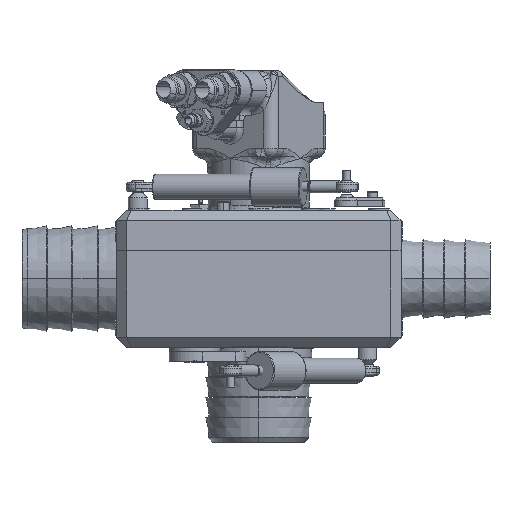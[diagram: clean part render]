
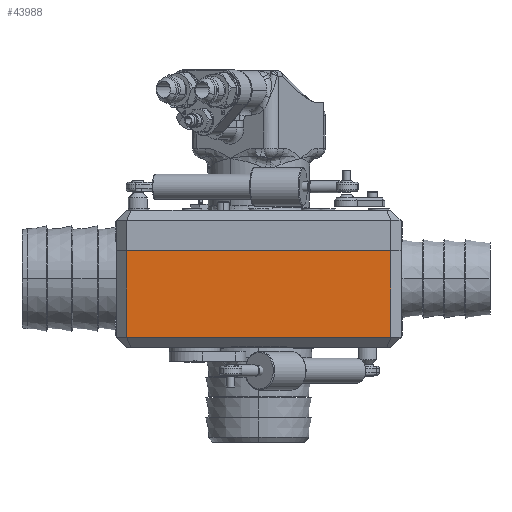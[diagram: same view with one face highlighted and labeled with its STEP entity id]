
A CAD part, left-side view. The second image highlights one B-rep face of the part: STEP entity #43988.
In plain terms, the highlighted planar face has unit normal (-1, 0, 0).
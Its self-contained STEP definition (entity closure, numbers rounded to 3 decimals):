
#11639 = FACE_OUTER_BOUND ( 'NONE', #43908, .T. ) ;
#11719 = DIRECTION ( 'NONE',  ( 0., 0., -1. ) ) ;
#11722 = DIRECTION ( 'NONE',  ( 1., 0., 0. ) ) ;
#11724 = CARTESIAN_POINT ( 'NONE',  ( -300., 130., -95. ) ) ;
#11725 = AXIS2_PLACEMENT_3D ( 'NONE', #11724, #11722, #11719 ) ;
#11727 = PLANE ( 'NONE',  #11725 ) ;
#43868 = EDGE_CURVE ( 'NONE', #43869, #43870, #132955, .T. ) ;
#43869 = VERTEX_POINT ( 'NONE', #133004 ) ;
#43870 = VERTEX_POINT ( 'NONE', #133003 ) ;
#43872 = ORIENTED_EDGE ( 'NONE', *, *, #43873, .T. ) ;
#43873 = EDGE_CURVE ( 'NONE', #43869, #67009, #133002, .T. ) ;
#43874 = ORIENTED_EDGE ( 'NONE', *, *, #43893, .T. ) ;
#43876 = ORIENTED_EDGE ( 'NONE', *, *, #43877, .T. ) ;
#43877 = EDGE_CURVE ( 'NONE', #43897, #43870, #132997, .T. ) ;
#43893 = EDGE_CURVE ( 'NONE', #67009, #43897, #133069, .T. ) ;
#43897 = VERTEX_POINT ( 'NONE', #133064 ) ;
#43908 = EDGE_LOOP ( 'NONE', ( #43989, #43872, #43874, #43876 ) ) ;
#43988 = ADVANCED_FACE ( 'NONE', ( #11639 ), #11727, .F. ) ;
#43989 = ORIENTED_EDGE ( 'NONE', *, *, #43868, .F. ) ;
#63684 = CARTESIAN_POINT ( 'NONE',  ( -300., -130., -85. ) ) ;
#67009 = VERTEX_POINT ( 'NONE', #63684 ) ;
#132955 = LINE ( 'NONE', #133007, #133006 ) ;
#132994 = DIRECTION ( 'NONE',  ( 0., 1., 0. ) ) ;
#132995 = VECTOR ( 'NONE', #132994, 1000. ) ;
#132996 = CARTESIAN_POINT ( 'NONE',  ( -300., 130., 0. ) ) ;
#132997 = LINE ( 'NONE', #132996, #132995 ) ;
#132999 = DIRECTION ( 'NONE',  ( 0., -1., 0. ) ) ;
#133000 = VECTOR ( 'NONE', #132999, 1000. ) ;
#133001 = CARTESIAN_POINT ( 'NONE',  ( -300., -130., -85. ) ) ;
#133002 = LINE ( 'NONE', #133001, #133000 ) ;
#133003 = CARTESIAN_POINT ( 'NONE',  ( -300., 130., 0. ) ) ;
#133004 = CARTESIAN_POINT ( 'NONE',  ( -300., 130., -85. ) ) ;
#133005 = DIRECTION ( 'NONE',  ( 0., 0., 1. ) ) ;
#133006 = VECTOR ( 'NONE', #133005, 1000. ) ;
#133007 = CARTESIAN_POINT ( 'NONE',  ( -300., 130., -95. ) ) ;
#133064 = CARTESIAN_POINT ( 'NONE',  ( -300., -130., 0. ) ) ;
#133066 = DIRECTION ( 'NONE',  ( 0., 0., 1. ) ) ;
#133067 = VECTOR ( 'NONE', #133066, 1000. ) ;
#133068 = CARTESIAN_POINT ( 'NONE',  ( -300., -130., -95. ) ) ;
#133069 = LINE ( 'NONE', #133068, #133067 ) ;
